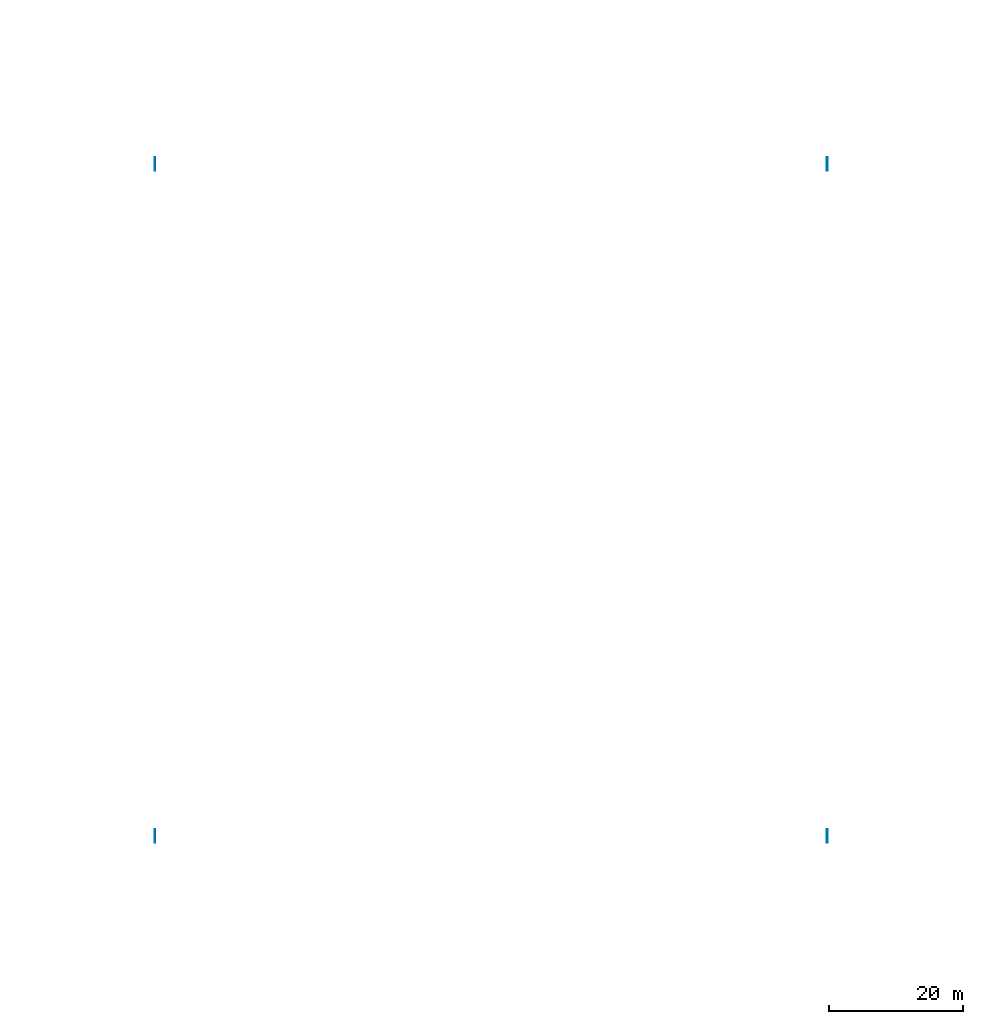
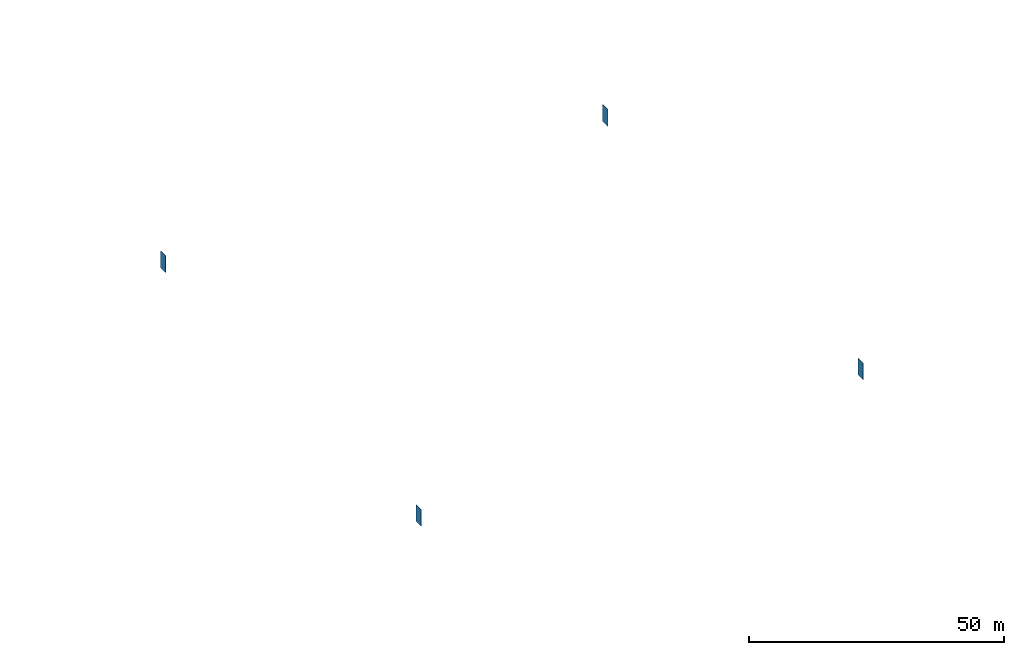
# One storey, part 65 of 164: 4 walls.
"""IFC2X3 building model written with IfcOpenShell, lengths in millimetres."""

import ifcopenshell
import ifcopenshell.guid

model = None  # the IFC model being written
_history = None  # IfcOwnerHistory: only IFC2X3 demands one
_inside = {}  # id of a spatial element -> (the spatial element, [elements in it])
_under = {}  # id of a project, library or spatial element -> (it, [spatial elements below it])
_declared = {}  # id of a project -> (the project, [libraries it declares])
_typed = {}  # id of a type object -> (the type object, [elements of that type])
_made_of = {}  # id of a material, layer set ... -> (it, [elements and type objects made of it])


def new_model(schema):
    """Start an empty IFC model of exactly this schema.

    Asked for "IFC4X3", IfcOpenShell would pick the latest addendum, in which some entities
    have other attributes; the version numbers below select the first issue.
    IFC2X3 requires an IfcOwnerHistory on every rooted entity: one is made here for all.
    """
    global model, _history
    if schema == "IFC4X3":
        model = ifcopenshell.file(schema_version=(4, 3, 0, 0))
    else:
        model = ifcopenshell.file(schema=schema)
    _inside.clear()
    _under.clear()
    _declared.clear()
    _typed.clear()
    _made_of.clear()
    _history = None
    if model.schema == "IFC2X3":
        org = make("IfcOrganization", Name="unknown")
        user = make(
            "IfcPersonAndOrganization",
            ThePerson=make("IfcPerson", FamilyName="unknown"),
            TheOrganization=org,
        )
        app = make(
            "IfcApplication",
            ApplicationDeveloper=org,
            Version="unknown",
            ApplicationFullName="unknown",
            ApplicationIdentifier="unknown",
        )
        _history = make(
            "IfcOwnerHistory",
            OwningUser=user,
            OwningApplication=app,
            ChangeAction="ADDED",
            CreationDate=0,
        )
    return model


def make(cls, **values):
    """One entity of the class cls with the attributes given. An attribute that is None is left unset."""
    return model.create_entity(
        cls, **{name: value for name, value in values.items() if value is not None}
    )


def entity(cls, *values):
    """Any entity or typed value of the class cls, its attributes in the order of the schema. None: left unset."""
    e = model.create_entity(cls)
    for i, value in enumerate(values):
        if value is not None:
            e[i] = value
    return e


def rooted(cls, **values):
    """An entity with a GlobalId (a new one), such as an element, a storey or a relation."""
    return make(cls, GlobalId=ifcopenshell.guid.new(), OwnerHistory=_history, **values)


def si_unit(unit_type, name, prefix=None):
    """IfcSIUnit, for example si_unit("LENGTHUNIT", "METRE", prefix="MILLI")."""
    return make("IfcSIUnit", UnitType=unit_type, Prefix=prefix, Name=name)


def converted_unit(unit_type, name, factor, base, dimensions=None, offset=None):
    """IfcConversionBasedUnit, such as the inch: factor (a typed value) times the base unit."""
    return make(
        "IfcConversionBasedUnit"
        if offset is None
        else "IfcConversionBasedUnitWithOffset",
        ConversionOffset=offset,
        Dimensions=None
        if dimensions is None
        else entity("IfcDimensionalExponents", *dimensions),
        UnitType=unit_type,
        Name=name,
        ConversionFactor=make(
            "IfcMeasureWithUnit", ValueComponent=factor, UnitComponent=base
        ),
    )


def derived_unit(unit_type, elements):
    """IfcDerivedUnit: a product of units, each with its exponent."""
    return make(
        "IfcDerivedUnit",
        Elements=[
            make("IfcDerivedUnitElement", Unit=unit, Exponent=power)
            for unit, power in elements
        ],
        UnitType=unit_type,
    )


def assignment(units):
    """IfcUnitAssignment: the units of a project."""
    return None if units is None else make("IfcUnitAssignment", Units=units)


def point(xyz):
    """IfcCartesianPoint."""
    return None if xyz is None else make("IfcCartesianPoint", Coordinates=xyz)


def direction(xyz):
    """IfcDirection."""
    return None if xyz is None else make("IfcDirection", DirectionRatios=xyz)


def frame(location, z_axis=None, x_axis=None):
    """IfcAxis2Placement3D, a coordinate frame: its origin and axes. An axis left out is left unset."""
    return make(
        "IfcAxis2Placement3D",
        Location=point(location),
        Axis=direction(z_axis),
        RefDirection=direction(x_axis),
    )


def frame_2d(location, x_axis=None):
    """IfcAxis2Placement2D, a coordinate frame in the plane: its origin and x axis."""
    return make(
        "IfcAxis2Placement2D", Location=point(location), RefDirection=direction(x_axis)
    )


def origin():
    """The frame at (0, 0, 0) with its axes left unset."""
    return frame((0.0, 0.0, 0.0))


def place(relative_to, where):
    """IfcLocalPlacement: puts the frame where relative to a parent placement (None: the world)."""
    return make(
        "IfcLocalPlacement", PlacementRelTo=relative_to, RelativePlacement=where
    )


def context(
    kind, dimensions, precision=None, world=None, true_north=None, identifier=None
):
    """IfcGeometricRepresentationContext, for example the 3D "Model" context."""
    return make(
        "IfcGeometricRepresentationContext",
        ContextIdentifier=identifier,
        ContextType=kind,
        CoordinateSpaceDimension=dimensions,
        Precision=precision,
        WorldCoordinateSystem=world,
        TrueNorth=true_north,
    )


def subcontext(parent, identifier, kind, view, scale=None):
    """IfcGeometricRepresentationSubContext, for example "Body" below "Model"."""
    return make(
        "IfcGeometricRepresentationSubContext",
        ContextIdentifier=identifier,
        ContextType=kind,
        ParentContext=parent,
        TargetScale=scale,
        TargetView=view,
    )


def project(units=None, contexts=None):
    """IfcProject with its units and contexts."""
    return rooted(
        "IfcProject",
        Name="project",
        RepresentationContexts=contexts,
        UnitsInContext=assignment(units),
    )


def spatial(cls, under=None, at=None, **own):
    """A site, building, storey or space (cls), placed at a placement, below another one or the project."""
    s = rooted(cls, ObjectPlacement=at, **own)
    if under is not None:
        _under.setdefault(under.id(), (under, []))[1].append(s)
    return s


def profile(cls, at=None, kind="AREA", **sizes):
    """A parametric profile (cls). Its sizes go by their IFC names, for example OverallWidth=200.0."""
    return make(cls, ProfileType=kind, Position=at, **sizes)


def rectangle(**sizes):
    """IfcRectangleProfileDef."""
    return profile("IfcRectangleProfileDef", **sizes)


def extrude(swept, where, along, depth):
    """IfcExtrudedAreaSolid: the profile swept, set in the frame where, extruded along a direction by depth."""
    return make(
        "IfcExtrudedAreaSolid",
        SweptArea=swept,
        Position=where,
        ExtrudedDirection=direction(along),
        Depth=depth,
    )


def shape(context_of_items, identifier, shape_type, items):
    """IfcShapeRepresentation: the items that make up one representation, for example the "Body"."""
    return make(
        "IfcShapeRepresentation",
        ContextOfItems=context_of_items,
        RepresentationIdentifier=identifier,
        RepresentationType=shape_type,
        Items=items,
    )


def material(Name=None, Category=None):
    """IfcMaterial."""
    return make("IfcMaterial", Name=Name, Category=Category)


def layer(
    of_material, thickness, ventilated=None, Name=None, Category=None, Priority=None
):
    """IfcMaterialLayer: one layer of a wall or slab, of a material (None: an air gap)."""
    return make(
        "IfcMaterialLayer",
        Material=of_material,
        LayerThickness=thickness,
        IsVentilated=ventilated,
        Name=Name,
        Category=Category,
        Priority=Priority,
    )


def layer_set(layers, Name=None):
    """IfcMaterialLayerSet."""
    return make("IfcMaterialLayerSet", MaterialLayers=layers, LayerSetName=Name)


def layer_usage(for_layer_set, set_direction, sense, offset, extent=None):
    """IfcMaterialLayerSetUsage: how a layer set lies in its element."""
    return make(
        "IfcMaterialLayerSetUsage",
        ForLayerSet=for_layer_set,
        LayerSetDirection=set_direction,
        DirectionSense=sense,
        OffsetFromReferenceLine=offset,
        ReferenceExtent=extent,
    )


def made_of(thing, what):
    """Note that an element or type object is made of a material, layer set ...; save() writes the relation."""
    if what is not None:
        _made_of.setdefault(what.id(), (what, []))[1].append(thing)
    return thing


def type_object(cls, material=None, **own):
    """A type object (cls), such as IfcWallType, which elements share."""
    return made_of(rooted(cls, **own), material)


def element(
    cls,
    number,
    at=None,
    inside=None,
    cuts=None,
    type_object=None,
    material=None,
    context=None,
    identifier="Body",
    shape_type=None,
    held_by="IfcProductDefinitionShape",
    body=None,
    shapes=None,
    **own,
):
    """One element of the class cls, such as IfcWall. Its Tag is "e" and its number.

    at: its placement. inside: the storey or other place that contains it. cuts: it is an
    opening in that element (IfcRelVoidsElement). A single representation is given by context,
    identifier, shape_type and body (its items); several are given by shapes. held_by: the class
    of the entity that holds the representations. save() writes the other relations.
    """
    e = rooted(cls, Tag="e%d" % number, ObjectPlacement=at, **own)
    if body is not None:
        shapes = [shape(context, identifier, shape_type, body)]
    if shapes is not None:
        e.Representation = make(held_by, Representations=shapes)
    if inside is not None:
        _inside.setdefault(inside.id(), (inside, []))[1].append(e)
    if cuts is not None:
        rooted(
            "IfcRelVoidsElement", RelatingBuildingElement=cuts, RelatedOpeningElement=e
        )
    if type_object is not None:
        _typed.setdefault(type_object.id(), (type_object, []))[1].append(e)
    return made_of(e, material)


def aggregate(whole, parts):
    """IfcRelAggregates: a whole, such as a stair, and the parts it consists of."""
    return rooted("IfcRelAggregates", RelatingObject=whole, RelatedObjects=parts)


def save(model, path):
    """Write the relations noted so far, then the file.

    IfcRelAggregates (storeys below a building ...), IfcRelContainedInSpatialStructure (elements
    in a storey), IfcRelDefinesByType, IfcRelAssociatesMaterial and IfcRelDeclares: one each for
    every whole, place, type object, material and project.
    """
    for whole, parts in _under.values():
        aggregate(whole, parts)
    for where, things in _inside.values():
        rooted(
            "IfcRelContainedInSpatialStructure",
            RelatedElements=things,
            RelatingStructure=where,
        )
    for kind, things in _typed.values():
        rooted("IfcRelDefinesByType", RelatedObjects=things, RelatingType=kind)
    for what, things in _made_of.values():
        rooted("IfcRelAssociatesMaterial", RelatedObjects=things, RelatingMaterial=what)
    for by, libraries in _declared.values():
        rooted("IfcRelDeclares", RelatingContext=by, RelatedDefinitions=libraries)
    model.write(path)


model = new_model("IFC2X3")

# Units and contexts
model_context = context("Model", 3, precision=0.01, world=origin(), true_north=direction((6.12303176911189e-17, 1.0)))
body_context = subcontext(model_context, "Body", "Model", "MODEL_VIEW")
ifc_project = project(units=[si_unit("LENGTHUNIT", "METRE", prefix="MILLI"), si_unit("AREAUNIT", "SQUARE_METRE"), si_unit("VOLUMEUNIT", "CUBIC_METRE"), converted_unit("PLANEANGLEUNIT", "DEGREE", entity("IfcRatioMeasure", 0.0174532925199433), si_unit("PLANEANGLEUNIT", "RADIAN"), dimensions=[0, 0, 0, 0, 0, 0, 0]), si_unit("MASSUNIT", "GRAM", prefix="KILO"), derived_unit("MASSDENSITYUNIT", [(si_unit("MASSUNIT", "GRAM", prefix="KILO"), 1), (si_unit("LENGTHUNIT", "METRE"), -3)]), derived_unit("MOMENTOFINERTIAUNIT", [(si_unit("LENGTHUNIT", "METRE"), 4)]), si_unit("TIMEUNIT", "SECOND"), si_unit("FREQUENCYUNIT", "HERTZ"), si_unit("THERMODYNAMICTEMPERATUREUNIT", "DEGREE_CELSIUS"), derived_unit("THERMALTRANSMITTANCEUNIT", [(si_unit("MASSUNIT", "GRAM", prefix="KILO"), 1), (si_unit("THERMODYNAMICTEMPERATUREUNIT", "KELVIN"), -1), (si_unit("TIMEUNIT", "SECOND"), -3)]), derived_unit("VOLUMETRICFLOWRATEUNIT", [(si_unit("LENGTHUNIT", "METRE"), 3), (si_unit("TIMEUNIT", "SECOND"), -1)]), si_unit("ELECTRICCURRENTUNIT", "AMPERE"), si_unit("ELECTRICVOLTAGEUNIT", "VOLT"), si_unit("POWERUNIT", "WATT"), si_unit("FORCEUNIT", "NEWTON", prefix="KILO"), si_unit("ILLUMINANCEUNIT", "LUX"), si_unit("LUMINOUSFLUXUNIT", "LUMEN"), si_unit("LUMINOUSINTENSITYUNIT", "CANDELA"), derived_unit("USERDEFINED", [(si_unit("MASSUNIT", "GRAM", prefix="KILO"), -1), (si_unit("LENGTHUNIT", "METRE"), -2), (si_unit("TIMEUNIT", "SECOND"), 3), (si_unit("LUMINOUSFLUXUNIT", "LUMEN"), 1)]), derived_unit("LINEARVELOCITYUNIT", [(si_unit("LENGTHUNIT", "METRE"), 1), (si_unit("TIMEUNIT", "SECOND"), -1)]), si_unit("PRESSUREUNIT", "PASCAL"), derived_unit("USERDEFINED", [(si_unit("LENGTHUNIT", "METRE"), -2), (si_unit("MASSUNIT", "GRAM", prefix="KILO"), 1), (si_unit("TIMEUNIT", "SECOND"), -2)]), derived_unit("LINEARFORCEUNIT", [(si_unit("MASSUNIT", "GRAM", prefix="KILO"), 1), (si_unit("LENGTHUNIT", "METRE"), 1), (si_unit("TIMEUNIT", "SECOND"), -2), (si_unit("LENGTHUNIT", "METRE"), -1)]), derived_unit("PLANARFORCEUNIT", [(si_unit("MASSUNIT", "GRAM", prefix="KILO"), 1), (si_unit("LENGTHUNIT", "METRE"), 1), (si_unit("TIMEUNIT", "SECOND"), -2), (si_unit("LENGTHUNIT", "METRE"), -2)])], contexts=[model_context])

# Site, building, storey
site_placement = place(None, origin())
site = spatial("IfcSite", under=ifc_project, at=site_placement, Name="Default", CompositionType="ELEMENT")
building_placement = place(site_placement, origin())
building = spatial("IfcBuilding", under=site, at=building_placement, CompositionType="ELEMENT")
storey_placement = place(building_placement, origin())
storey = spatial("IfcBuildingStorey", under=building, at=storey_placement, Name="Level 1", CompositionType="ELEMENT", Elevation=0.0)

# Walls
ifc_material = material(Name="Default Wall")
ifc_layer = layer(ifc_material, 100.0)
ifc_layer_set = layer_set([ifc_layer], Name="Basic Wall:Generic - 100mm")
ifc_layer_usage_1 = layer_usage(ifc_layer_set, "AXIS2", "NEGATIVE", 50.0)
wall_type = type_object("IfcWallType", Name="Basic Wall:Generic - 100mm", PredefinedType="STANDARD", material=ifc_layer_set)
wall_1_placement = place(storey_placement, frame((1300050.0, 401000.0, 0.0), z_axis=(0.0, 0.0, 1.0), x_axis=(0.0, -1.0, 0.0)))
element("IfcWallStandardCase", 1, at=wall_1_placement, inside=storey, type_object=wall_type, material=ifc_layer_usage_1, Name="Basic Wall:Generic - 100mm", ObjectType="Basic Wall:Generic - 100mm", context=body_context, shape_type="SweptSolid", body=[
    extrude(rectangle(XDim=1999.99999999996, YDim=100.000000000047, at=frame_2d((999.999999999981, 1.60582658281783e-12), x_axis=(-1.0, 0.0))), origin(), (0.0, 0.0, 1.0), 4000.0),
])
ifc_layer_usage_2 = layer_usage(ifc_layer_set, "AXIS2", "NEGATIVE", 50.0)
wall_2_placement = place(storey_placement, frame((1400050.0, 401000.0, 0.0), z_axis=(0.0, 0.0, 1.0), x_axis=(0.0, -1.0, 0.0)))
element("IfcWallStandardCase", 2, at=wall_2_placement, inside=storey, type_object=wall_type, material=ifc_layer_usage_2, Name="Basic Wall:Generic - 100mm", ObjectType="Basic Wall:Generic - 100mm", context=body_context, shape_type="SweptSolid", body=[
    extrude(rectangle(XDim=1999.99999999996, YDim=100.000000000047, at=frame_2d((999.999999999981, 1.60582658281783e-12), x_axis=(-1.0, 0.0))), origin(), (0.0, 0.0, 1.0), 4000.0),
])
ifc_layer_usage_3 = layer_usage(ifc_layer_set, "AXIS2", "NEGATIVE", 50.0)
wall_3_placement = place(storey_placement, frame((1300050.0, 501000.0, 0.0), z_axis=(0.0, 0.0, 1.0), x_axis=(0.0, -1.0, 0.0)))
element("IfcWallStandardCase", 3, at=wall_3_placement, inside=storey, type_object=wall_type, material=ifc_layer_usage_3, Name="Basic Wall:Generic - 100mm", ObjectType="Basic Wall:Generic - 100mm", context=body_context, shape_type="SweptSolid", body=[
    extrude(rectangle(XDim=1999.99999999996, YDim=100.000000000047, at=frame_2d((999.999999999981, 1.60582658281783e-12), x_axis=(-1.0, 0.0))), origin(), (0.0, 0.0, 1.0), 4000.0),
])
ifc_layer_usage_4 = layer_usage(ifc_layer_set, "AXIS2", "NEGATIVE", 50.0)
wall_4_placement = place(storey_placement, frame((1400050.0, 501000.0, 0.0), z_axis=(0.0, 0.0, 1.0), x_axis=(0.0, -1.0, 0.0)))
element("IfcWallStandardCase", 4, at=wall_4_placement, inside=storey, type_object=wall_type, material=ifc_layer_usage_4, Name="Basic Wall:Generic - 100mm", ObjectType="Basic Wall:Generic - 100mm", context=body_context, shape_type="SweptSolid", body=[
    extrude(rectangle(XDim=1999.99999999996, YDim=100.000000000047, at=frame_2d((999.999999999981, 1.60582658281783e-12), x_axis=(-1.0, 0.0))), origin(), (0.0, 0.0, 1.0), 4000.0),
])

save(model, "model.ifc")
